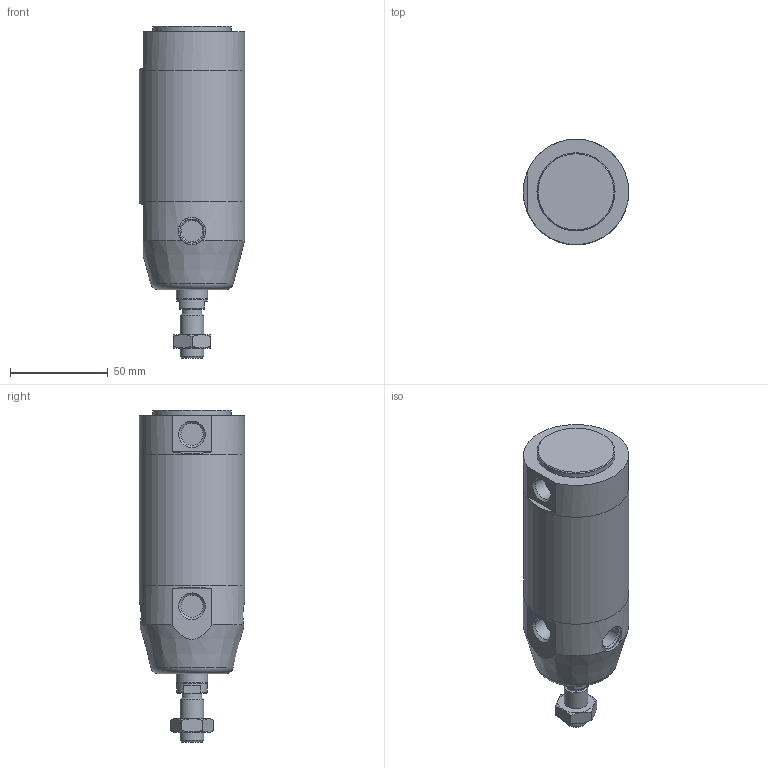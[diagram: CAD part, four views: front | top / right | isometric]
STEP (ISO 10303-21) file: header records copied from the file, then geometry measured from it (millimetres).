
FILE_DESCRIPTION(/* description */ (''),/* implementation_level */ '2;1');
FILE_NAME(/* name */ 'I:\Area Tecnica\Documenti\A-Manieri\_Inventor\12X\12X#E_###_####_#_#\12XAE_050_0025_#_#.stp',/* time_stamp */ '2015-05-08T13:40:08+02:00',/* author */ ('maniean1'),/* organization */ ('Pneumax S.p.A.'),/* preprocessor_version */ 'ST-DEVELOPER v15.2',/* originating_system */ 'Autodesk Inventor 2014',/* authorisation */ '');
FILE_SCHEMA (('AUTOMOTIVE_DESIGN { 1 0 10303 214 3 1 1 }'));
Length unit declared in the file: millimetre
Products named in the file (6): C1250_619-0025; 12X50_622; S12X50_0025; 12X_50_11; 12X50_611; 12XAE_050_0025_#_#
Bounding box: 54 x 54 x 170 mm (x, y, z)
Volume: 251894 mm3; surface area: 61008.4 mm2
Topology: 5 solids, 5 shells, 65 faces, 132 edges, 84 vertices
Faces by surface type: plane 33, cylinder 18, cone 13, torus 1
Full cylindrical faces by diameter (mm): 10.2 x1, 10.9 x2, 11.4 x2, 12 x2, 14 x1, 14.1 x2, 15.6 x1, 16 x1, 40 x1, 50 x2, 54 x3
Entity records: 1691 total; most frequent: CARTESIAN_POINT 368, DIRECTION 279, ORIENTED_EDGE 190, AXIS2_PLACEMENT_3D 129, EDGE_LOOP 108, EDGE_CURVE 95, VERTEX_POINT 77, ADVANCED_FACE 65
